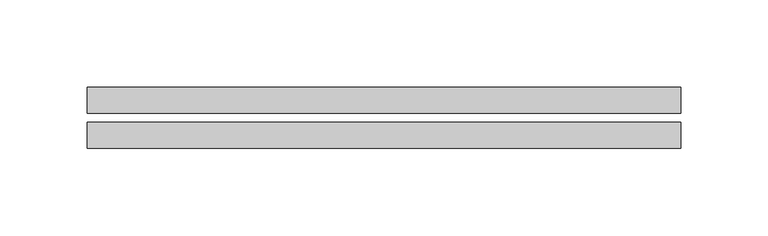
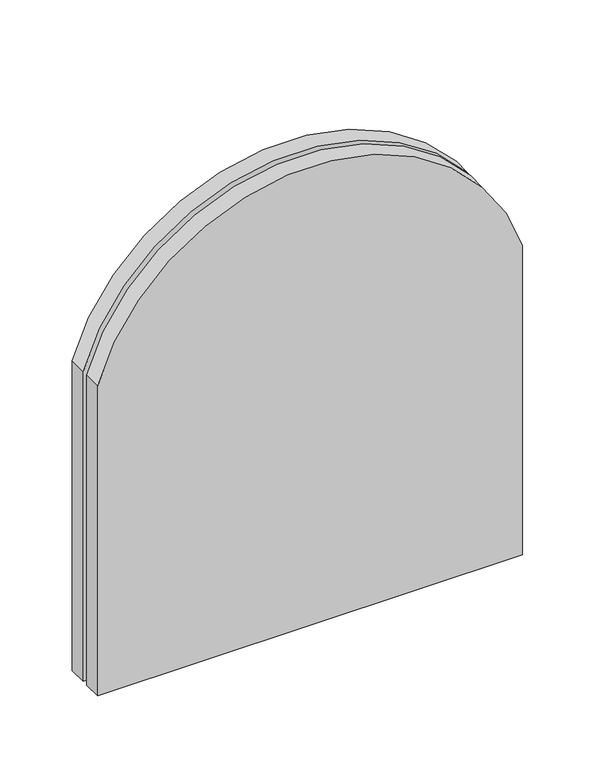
"""IFC4 building model written with IfcOpenShell, lengths in millimetres: flow terminal geometry, Deca_Shared_Assento_P.707 : Assento termofixo slow close e easy clean - Branco GE17."""

from ifc_helpers import new_model, si_unit, point, frame, frame_2d, origin, place, context, project, spatial, polyline, circle_curve, trimmed, segment, composite_curve, outline, extrude, source, transform, mapped, element, save


def flow_terminal_424f6e85(model_context):
    return source(origin(), model_context, "Body", "SweptSolid", [
        extrude(outline(composite_curve([segment(trimmed(circle_curve(frame_2d((209.7115385, 0.0)), 177.7884615), [point((261.7570671, 170.0))], [point((261.7570671, -170.0))], False, "CARTESIAN"), True, "CONTINUOUS"), segment(polyline([(261.7570671, -170.0), (0.0, -170.0), (0.0, 170.0), (261.7570671, 170.0)]), True, "CONTINUOUS")], self_intersect=False)), frame((0.0, 20.0, 0.0), z_axis=(0.0, 1.0, 0.0), x_axis=(0.0, 0.0, 1.0)), (0.0, 0.0, 1.0), 15.0),
        extrude(outline(composite_curve([segment(polyline([(261.7570671, -170.0), (0.0, -170.0), (0.0, 170.0), (261.7570671, 170.0)]), True, "CONTINUOUS"), segment(trimmed(circle_curve(frame_2d((209.7115385, 0.0)), 177.7884615), [point((261.7570671, 170.0))], [point((261.7570671, -170.0))], False, "CARTESIAN"), True, "CONTINUOUS")], self_intersect=False)), frame((0.0, 0.0, 0.0), z_axis=(0.0, 1.0, 0.0), x_axis=(0.0, 0.0, 1.0)), (0.0, 0.0, 1.0), 15.0),
    ])


if __name__ == "__main__":
    model = new_model("IFC4")
    model_context = context("Model", 3, world=origin())
    ifc_project = project(units=[si_unit("LENGTHUNIT", "METRE", prefix="MILLI")], contexts=[model_context])
    site = spatial("IfcSite", under=ifc_project)
    building = spatial("IfcBuilding", under=site)
    placement = place(None, origin())
    flow_terminal_shape = flow_terminal_424f6e85(model_context)
    element("IfcFlowTerminal", 1, ObjectType="Deca_Shared_Assento_P.707 : Assento termofixo slow close e easy clean - Branco GE17", at=placement, inside=building, context=model_context, shape_type="MappedRepresentation", body=[
        mapped(flow_terminal_shape, transform((0.0, 0.0, 0.0), x_axis=(1.0, 0.0, 0.0), y_axis=(0.0, 1.0, 0.0), z_axis=(0.0, 0.0, 1.0))),
    ])
    save(model, "model.ifc")
